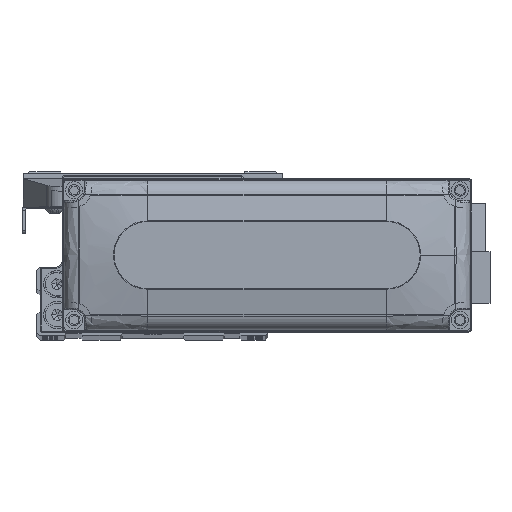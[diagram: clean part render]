
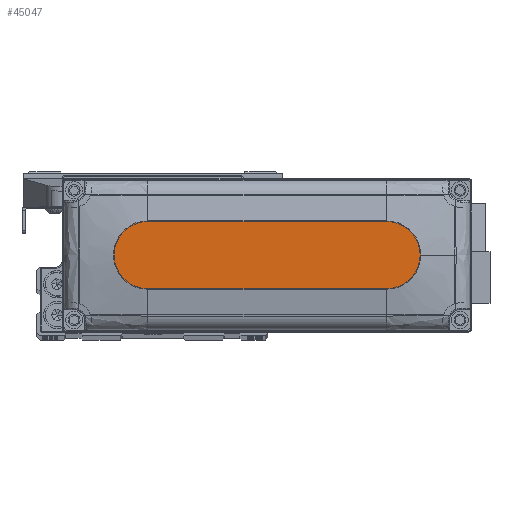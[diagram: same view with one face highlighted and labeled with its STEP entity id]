
A CAD part, top view. The second image highlights one B-rep face of the part: STEP entity #45047.
In plain terms, the highlighted planar face has unit normal (0, 0, 1).
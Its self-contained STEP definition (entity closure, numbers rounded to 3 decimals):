
#669 = DIRECTION ( 'NONE',  ( 0., 0., 1. ) ) ;
#1986 = VERTEX_POINT ( 'NONE', #12968 ) ;
#2009 = AXIS2_PLACEMENT_3D ( 'NONE', #23378, #37518, #5815 ) ;
#2199 = ORIENTED_EDGE ( 'NONE', *, *, #21779, .T. ) ;
#5599 = EDGE_CURVE ( 'NONE', #13609, #23224, #45346, .T. ) ;
#5815 = DIRECTION ( 'NONE',  ( 1., 0., 0. ) ) ;
#6097 = ORIENTED_EDGE ( 'NONE', *, *, #30865, .T. ) ;
#10815 = EDGE_CURVE ( 'NONE', #1986, #13609, #21969, .T. ) ;
#11839 = DIRECTION ( 'NONE',  ( 1., 0., 0. ) ) ;
#12577 = AXIS2_PLACEMENT_3D ( 'NONE', #45593, #13879, #27996 ) ;
#12968 = CARTESIAN_POINT ( 'NONE',  ( 35., -10., 28. ) ) ;
#13431 = LINE ( 'NONE', #27543, #26181 ) ;
#13609 = VERTEX_POINT ( 'NONE', #22903 ) ;
#13879 = DIRECTION ( 'NONE',  ( 0., 0., 1. ) ) ;
#14778 = DIRECTION ( 'NONE',  ( 1., 0., 0. ) ) ;
#15528 = CARTESIAN_POINT ( 'NONE',  ( -35., 10., 28. ) ) ;
#15626 = AXIS2_PLACEMENT_3D ( 'NONE', #29422, #43549, #11839 ) ;
#16035 = LINE ( 'NONE', #30172, #26934 ) ;
#17334 = FACE_OUTER_BOUND ( 'NONE', #44506, .T. ) ;
#21779 = EDGE_CURVE ( 'NONE', #24743, #39479, #35616, .T. ) ;
#21969 = CIRCLE ( 'NONE', #2009, 10. ) ;
#22903 = CARTESIAN_POINT ( 'NONE',  ( 45., 0., 28. ) ) ;
#23074 = ORIENTED_EDGE ( 'NONE', *, *, #5599, .T. ) ;
#23224 = VERTEX_POINT ( 'NONE', #28061 ) ;
#23225 = ORIENTED_EDGE ( 'NONE', *, *, #10815, .T. ) ;
#23378 = CARTESIAN_POINT ( 'NONE',  ( 35., 0., 28. ) ) ;
#24743 = VERTEX_POINT ( 'NONE', #15528 ) ;
#25389 = AXIS2_PLACEMENT_3D ( 'NONE', #32371, #669, #14778 ) ;
#26168 = EDGE_CURVE ( 'NONE', #23224, #24743, #13431, .T. ) ;
#26181 = VECTOR ( 'NONE', #41667, 1000. ) ;
#26934 = VECTOR ( 'NONE', #44306, 1000. ) ;
#27543 = CARTESIAN_POINT ( 'NONE',  ( -35., 10., 28. ) ) ;
#27996 = DIRECTION ( 'NONE',  ( 1., 0., 0. ) ) ;
#28061 = CARTESIAN_POINT ( 'NONE',  ( 35., 10., 28. ) ) ;
#28993 = CARTESIAN_POINT ( 'NONE',  ( -35., -10., 28. ) ) ;
#29422 = CARTESIAN_POINT ( 'NONE',  ( -35., 0., 28. ) ) ;
#30172 = CARTESIAN_POINT ( 'NONE',  ( -35., -10., 28. ) ) ;
#30865 = EDGE_CURVE ( 'NONE', #39479, #1986, #16035, .T. ) ;
#31464 = PLANE ( 'NONE',  #12577 ) ;
#32371 = CARTESIAN_POINT ( 'NONE',  ( 35., 0., 28. ) ) ;
#35616 = CIRCLE ( 'NONE', #15626, 10. ) ;
#36869 = ORIENTED_EDGE ( 'NONE', *, *, #26168, .T. ) ;
#37518 = DIRECTION ( 'NONE',  ( 0., 0., 1. ) ) ;
#39479 = VERTEX_POINT ( 'NONE', #28993 ) ;
#41667 = DIRECTION ( 'NONE',  ( -1., 0., 0. ) ) ;
#43549 = DIRECTION ( 'NONE',  ( 0., 0., 1. ) ) ;
#44306 = DIRECTION ( 'NONE',  ( 1., 0., 0. ) ) ;
#44506 = EDGE_LOOP ( 'NONE', ( #36869, #2199, #6097, #23225, #23074 ) ) ;
#45047 = ADVANCED_FACE ( 'NONE', ( #17334 ), #31464, .T. ) ;
#45346 = CIRCLE ( 'NONE', #25389, 10. ) ;
#45593 = CARTESIAN_POINT ( 'NONE',  ( 0., 0., 28. ) ) ;
